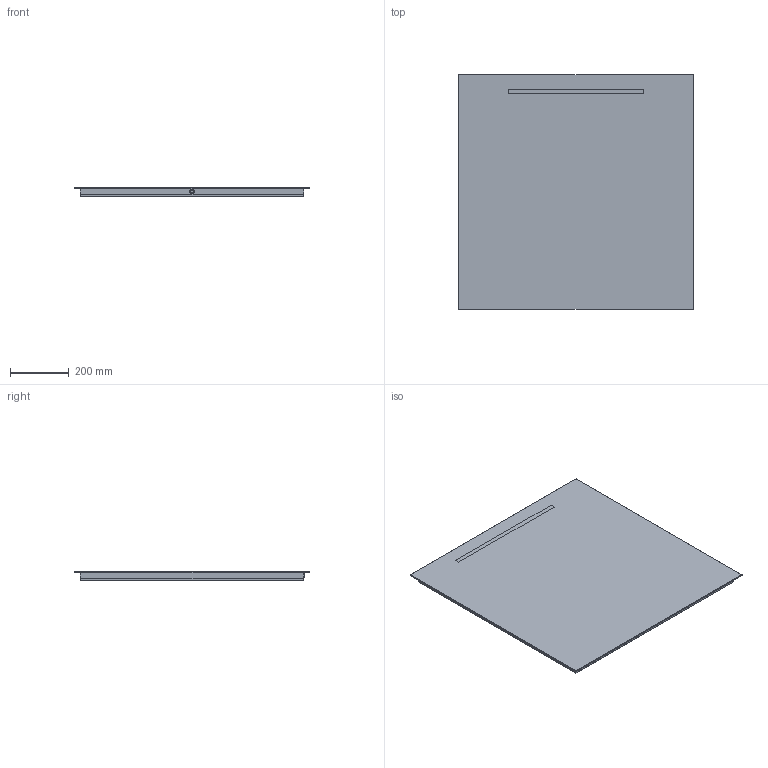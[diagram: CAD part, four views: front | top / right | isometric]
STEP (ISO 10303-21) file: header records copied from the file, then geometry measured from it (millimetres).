
FILE_DESCRIPTION (( 'STEP AP203' ), '1' );
FILE_NAME ('SPIEGEL MODEL 13 80CM.STEP', '2016-07-14T09:45:34', ( '' ), ( '' ), 'SwSTEP 2.0', 'SolidWorks 2016', '' );
FILE_SCHEMA (( 'CONFIG_CONTROL_DESIGN' ));
Length unit declared in the file: millimetre
Products named in the file (1): SPIEGEL MODEL 13 80CM
Bounding box: 800 x 800 x 30 mm (x, y, z)
Volume: 3705024.6 mm3; surface area: 1456201.5 mm2
Topology: 2 solids, 2 shells, 69 faces, 148 edges, 90 vertices
Faces by surface type: plane 59, cylinder 8, torus 2
Entity records: 1893 total; most frequent: DIRECTION 308, CARTESIAN_POINT 308, ORIENTED_EDGE 296, EDGE_CURVE 148, VECTOR 128, LINE 128, AXIS2_PLACEMENT_3D 90, VERTEX_POINT 90
